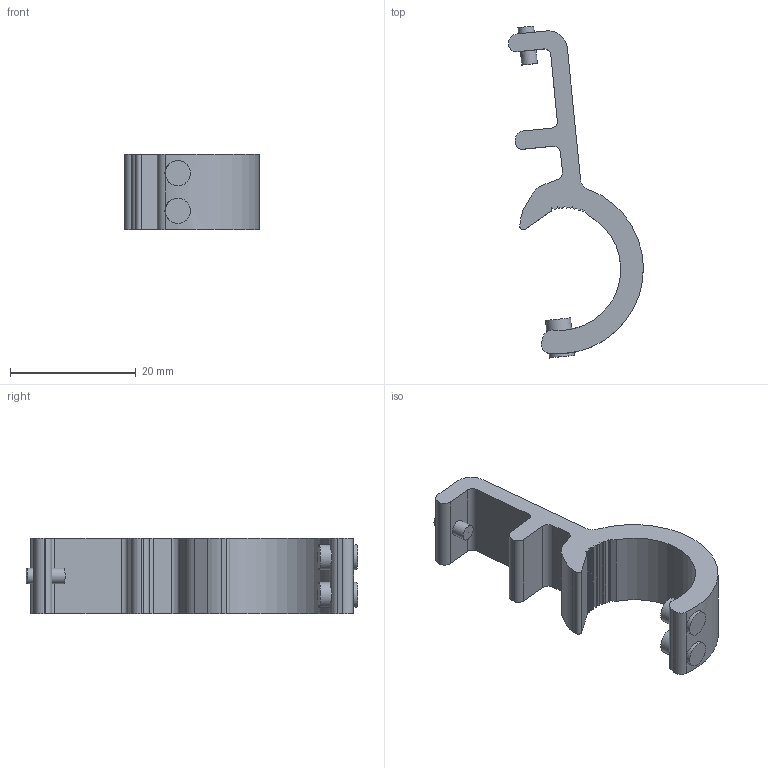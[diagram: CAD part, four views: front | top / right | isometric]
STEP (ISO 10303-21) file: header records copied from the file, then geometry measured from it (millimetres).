
FILE_DESCRIPTION( ( 'STEP AP214' ), '1' );
FILE_NAME( 'C:/Users/emc02044/Desktop/气缸辅件/PM-16.stp', '2026-08-20T06:17:01', ( 'License CC BY-ND 4.0' ), ( 'CADENAS' ), ' ', 'PARTsolutions', ' ' );
FILE_SCHEMA( ( 'AUTOMOTIVE_DESIGN { 1 0 10303 214 1 1 1 1 }' ) );
Length unit declared in the file: millimetre
Products named in the file (1): _PM-16
Bounding box: 21.45 x 52.86 x 12 mm (x, y, z)
Volume: 3371.3 mm3; surface area: 2693.8 mm2
Topology: 1 solids, 1 shells, 68 faces, 196 edges, 130 vertices
Faces by surface type: plane 39, cylinder 27, cone 2
Full cylindrical faces by diameter (mm): 2.5 x2, 4 x4
Entity records: 2908 total; most frequent: CARTESIAN_POINT 593, ORIENTED_EDGE 364, DIRECTION 362, EDGE_CURVE 182, VERTEX_POINT 126, LINE 124, VECTOR 124, AXIS2_PLACEMENT_3D 119
